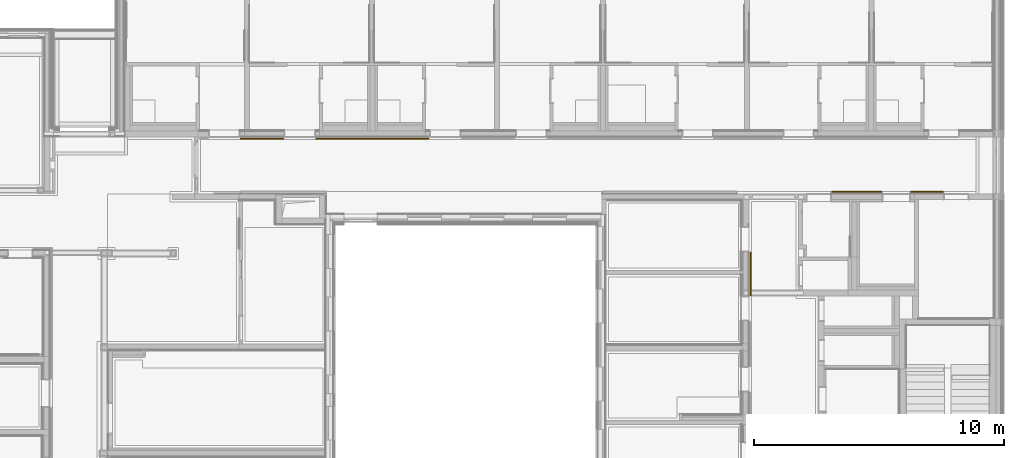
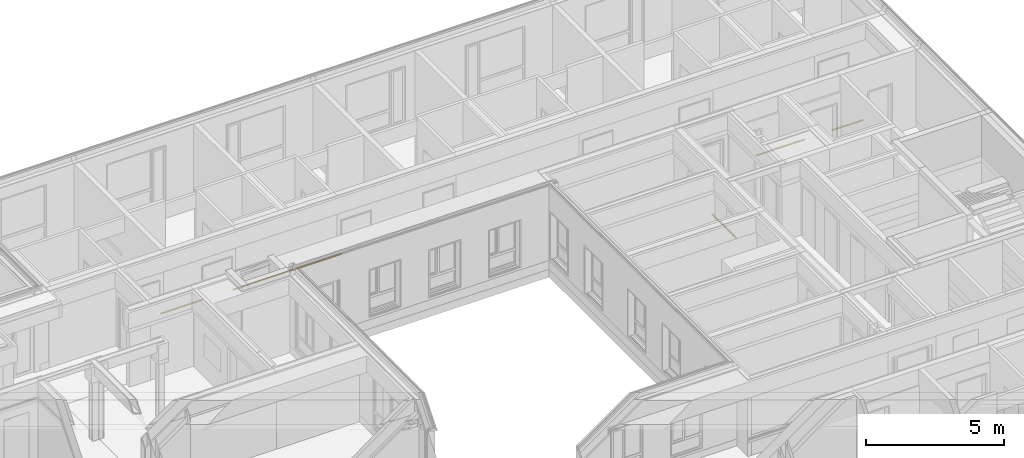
# One storey, part 203 of 207: 5 railings, 5 elements without a shape of their own.
"""IFC4 building model written with IfcOpenShell, lengths in metres."""

from ifc_helpers import new_model, entity, si_unit, converted_unit, derived_unit, frame, origin, place, context, subcontext, project, spatial, faceted_brep, material, element, aggregate, save


model = new_model("IFC4")

# Units and contexts
model_context = context("Model", 3, precision=1e-05, world=origin())
body_context = subcontext(model_context, "Body", "Model", "MODEL_VIEW")
ifc_project = project(units=[si_unit("LENGTHUNIT", "METRE"), si_unit("AREAUNIT", "SQUARE_METRE"), si_unit("VOLUMEUNIT", "CUBIC_METRE"), si_unit("MASSUNIT", "GRAM", prefix="KILO"), converted_unit("PLANEANGLEUNIT", "DEGREE", entity("IfcPlaneAngleMeasure", 0.0174532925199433), si_unit("PLANEANGLEUNIT", "RADIAN"), dimensions=[0, 0, 0, 0, 0, 0, 0]), derived_unit("THERMALTRANSMITTANCEUNIT", [(si_unit("POWERUNIT", "WATT"), 1), (si_unit("THERMODYNAMICTEMPERATUREUNIT", "KELVIN"), -1), (si_unit("LENGTHUNIT", "METRE"), -2)]), derived_unit("VOLUMETRICFLOWRATEUNIT", [(si_unit("LENGTHUNIT", "METRE"), 3), (converted_unit("TIMEUNIT", "hour", entity("IfcTimeMeasure", 3600.0), si_unit("TIMEUNIT", "SECOND"), dimensions=[0, 0, 1, 0, 0, 0, 0]), -1), (si_unit("LENGTHUNIT", "METRE"), -1)])], contexts=[model_context])

# Site, building, storey
site_placement = place(None, origin())
site = spatial("IfcSite", under=ifc_project, at=site_placement, Name="Psychiatrie Neubau Wunstorf", CompositionType="ELEMENT")
building_placement = place(site_placement, origin())
building = spatial("IfcBuilding", under=site, at=building_placement, Name="Neubau H2 Stationsgebäude", CompositionType="ELEMENT")
storey_placement = place(building_placement, frame((0.0, 0.0, -0.2)))
storey = spatial("IfcBuildingStorey", under=building, at=storey_placement, Name="H2 Ebene 0", CompositionType="ELEMENT", Elevation=-0.2)

# Assembly, railing
assembly_1_placement = place(storey_placement, frame((0.0, 0.0, 0.2)))
assembly_1 = element("IfcElementAssembly", 1, at=assembly_1_placement, inside=storey, Name="Geländer+Abstand", PredefinedType="NOTDEFINED")
ifc_material_1 = material(Name="Holz")
railing_1_placement = place(assembly_1_placement, frame((78.765, 25.0175, 0.8)))
railing_1 = element("IfcRailing", 2, at=railing_1_placement, material=ifc_material_1, context=body_context, shape_type="Brep", body=[
    faceted_brep([(4.51999999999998, 0.0498968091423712, 0.025), (4.51999999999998, 0.0495185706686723, 0.0206767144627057), (4.51999999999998, 0.0483953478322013, 0.0164847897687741), (4.51999999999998, 0.046561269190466, 0.0125515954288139), (4.51999999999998, 0.044072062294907, 0.00899663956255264), (4.51999999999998, 0.0410033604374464, 0.00592793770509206), (4.51999999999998, 0.0374484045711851, 0.00343873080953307), (4.51999999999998, 0.033515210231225, 0.00160465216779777), (4.51999999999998, 0.0293232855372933, 0.000481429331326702), (4.51999999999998, 0.024999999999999, 0.000103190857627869), (4.51999999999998, 0.0206767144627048, 0.000481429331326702), (4.51999999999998, 0.0164847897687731, 0.00160465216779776), (4.51999999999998, 0.012551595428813, 0.00343873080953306), (4.51999999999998, 0.00899663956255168, 0.00592793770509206), (4.51999999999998, 0.0059279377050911, 0.00899663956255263), (4.51999999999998, 0.0034387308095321, 0.0125515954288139), (4.51999999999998, 0.0016046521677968, 0.0164847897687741), (4.51999999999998, 0.000481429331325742, 0.0206767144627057), (4.51999999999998, 0.000103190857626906, 0.025), (4.51999999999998, 0.000481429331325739, 0.0293232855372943), (4.51999999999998, 0.0016046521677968, 0.0335152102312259), (4.51999999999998, 0.00343873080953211, 0.0374484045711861), (4.51999999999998, 0.00592793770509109, 0.0410033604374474), (4.51999999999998, 0.00899663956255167, 0.0440720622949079), (4.51999999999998, 0.012551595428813, 0.0465612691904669), (4.51999999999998, 0.0164847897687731, 0.0483953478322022), (4.51999999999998, 0.0206767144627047, 0.0495185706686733), (4.51999999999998, 0.024999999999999, 0.0498968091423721), (4.51999999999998, 0.0293232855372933, 0.0495185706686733), (4.51999999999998, 0.033515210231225, 0.0483953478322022), (4.51999999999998, 0.0374484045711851, 0.0465612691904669), (4.51999999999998, 0.0410033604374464, 0.044072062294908), (4.51999999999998, 0.044072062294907, 0.0410033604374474), (4.51999999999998, 0.046561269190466, 0.0374484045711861), (4.51999999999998, 0.0483953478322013, 0.0335152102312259), (4.51999999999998, 0.0495185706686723, 0.0293232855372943), (0.0, 0.0498968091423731, 0.025), (0.0, 0.0495185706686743, 0.0293232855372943), (0.0, 0.0483953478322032, 0.0335152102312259), (0.0, 0.0465612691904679, 0.0374484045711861), (0.0, 0.0440720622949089, 0.0410033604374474), (0.0, 0.0410033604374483, 0.044072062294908), (0.0, 0.037448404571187, 0.0465612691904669), (0.0, 0.0335152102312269, 0.0483953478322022), (0.0, 0.0293232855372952, 0.0495185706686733), (0.0, 0.025000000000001, 0.0498968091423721), (0.0, 0.0206767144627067, 0.0495185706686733), (0.0, 0.016484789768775, 0.0483953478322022), (0.0, 0.0125515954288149, 0.0465612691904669), (0.0, 0.00899663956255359, 0.0440720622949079), (0.0, 0.00592793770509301, 0.0410033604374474), (0.0, 0.00343873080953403, 0.0374484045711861), (0.0, 0.00160465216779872, 0.0335152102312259), (0.0, 0.000481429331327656, 0.0293232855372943), (0.0, 0.000103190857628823, 0.025), (0.0, 0.000481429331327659, 0.0206767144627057), (0.0, 0.00160465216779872, 0.0164847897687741), (0.0, 0.00343873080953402, 0.0125515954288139), (0.0, 0.00592793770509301, 0.00899663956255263), (0.0, 0.00899663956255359, 0.00592793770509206), (0.0, 0.0125515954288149, 0.00343873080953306), (0.0, 0.016484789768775, 0.00160465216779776), (0.0, 0.0206767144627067, 0.000481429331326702), (0.0, 0.025000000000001, 0.000103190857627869), (0.0, 0.0293232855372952, 0.000481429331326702), (0.0, 0.0335152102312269, 0.00160465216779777), (0.0, 0.037448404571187, 0.00343873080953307), (0.0, 0.0410033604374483, 0.00592793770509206), (0.0, 0.0440720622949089, 0.00899663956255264), (0.0, 0.0465612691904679, 0.0125515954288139), (0.0, 0.0483953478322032, 0.0164847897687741), (0.0, 0.0495185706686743, 0.0206767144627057)], [[[0, 1, 2, 3, 4, 5, 6, 7, 8, 9, 10, 11, 12, 13, 14, 15, 16, 17, 18, 19, 20, 21, 22, 23, 24, 25, 26, 27, 28, 29, 30, 31, 32, 33, 34, 35]], [[36, 37, 38, 39, 40, 41, 42, 43, 44, 45, 46, 47, 48, 49, 50, 51, 52, 53, 54, 55, 56, 57, 58, 59, 60, 61, 62, 63, 64, 65, 66, 67, 68, 69, 70, 71]], [[1, 0, 36, 71]], [[2, 1, 71, 70]], [[3, 2, 70, 69]], [[4, 3, 69, 68]], [[5, 4, 68, 67]], [[6, 5, 67, 66]], [[7, 6, 66, 65]], [[8, 7, 65, 64]], [[9, 8, 64, 63]], [[10, 9, 63, 62]], [[11, 10, 62, 61]], [[12, 11, 61, 60]], [[13, 12, 60, 59]], [[14, 13, 59, 58]], [[15, 14, 58, 57]], [[16, 15, 57, 56]], [[17, 16, 56, 55]], [[18, 17, 55, 54]], [[19, 18, 54, 53]], [[20, 19, 53, 52]], [[21, 20, 52, 51]], [[22, 21, 51, 50]], [[23, 22, 50, 49]], [[24, 23, 49, 48]], [[25, 24, 48, 47]], [[26, 25, 47, 46]], [[27, 26, 46, 45]], [[28, 27, 45, 44]], [[29, 28, 44, 43]], [[30, 29, 43, 42]], [[31, 30, 42, 41]], [[32, 31, 41, 40]], [[33, 32, 40, 39]], [[34, 33, 39, 38]], [[35, 34, 38, 37]], [[0, 35, 37, 36]]], orient=[[False], [False], [False], [False], [False], [False], [False], [False], [False], [False], [False], [False], [False], [False], [False], [False], [False], [False], [False], [False], [False], [False], [False], [False], [False], [False], [False], [False], [False], [False], [False], [False], [False], [False], [False], [False], [False], [False]]),
])
aggregate(assembly_1, [railing_1])

assembly_2_placement = place(storey_placement, frame((0.0, 0.0, 0.2)))
assembly_2 = element("IfcElementAssembly", 3, at=assembly_2_placement, inside=storey, Name="Geländer+Abstand", PredefinedType="NOTDEFINED")
ifc_material_2 = material(Name="Holz")
railing_2_placement = place(assembly_2_placement, frame((75.74, 25.0175, 0.8)))
railing_2 = element("IfcRailing", 4, at=railing_2_placement, material=ifc_material_2, context=body_context, shape_type="Brep", body=[
    faceted_brep([(0.0, 0.0498968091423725, 0.025), (0.0, 0.0495185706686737, 0.0293232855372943), (0.0, 0.0483953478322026, 0.0335152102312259), (0.0, 0.0465612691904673, 0.0374484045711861), (0.0, 0.0440720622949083, 0.0410033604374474), (0.0, 0.0410033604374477, 0.0440720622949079), (0.0, 0.0374484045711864, 0.0465612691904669), (0.0, 0.0335152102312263, 0.0483953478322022), (0.0, 0.0293232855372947, 0.0495185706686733), (0.0, 0.0250000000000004, 0.0498968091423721), (0.0, 0.0206767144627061, 0.0495185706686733), (0.0, 0.0164847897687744, 0.0483953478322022), (0.0, 0.0125515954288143, 0.0465612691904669), (0.0, 0.00899663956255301, 0.0440720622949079), (0.0, 0.00592793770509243, 0.0410033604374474), (0.0, 0.00343873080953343, 0.0374484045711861), (0.0, 0.00160465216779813, 0.0335152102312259), (0.0, 0.000481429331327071, 0.0293232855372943), (0.0, 0.000103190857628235, 0.025), (0.0, 0.000481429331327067, 0.0206767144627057), (0.0, 0.00160465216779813, 0.0164847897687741), (0.0, 0.00343873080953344, 0.0125515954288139), (0.0, 0.00592793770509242, 0.00899663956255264), (0.0, 0.008996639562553, 0.00592793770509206), (0.0, 0.0125515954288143, 0.00343873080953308), (0.0, 0.0164847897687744, 0.00160465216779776), (0.0, 0.0206767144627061, 0.000481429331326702), (0.0, 0.0250000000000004, 0.000103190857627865), (0.0, 0.0293232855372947, 0.000481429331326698), (0.0, 0.0335152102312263, 0.00160465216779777), (0.0, 0.0374484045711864, 0.00343873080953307), (0.0, 0.0410033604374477, 0.00592793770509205), (0.0, 0.0440720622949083, 0.00899663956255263), (0.0, 0.0465612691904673, 0.0125515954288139), (0.0, 0.0483953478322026, 0.0164847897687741), (0.0, 0.0495185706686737, 0.0206767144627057), (1.73499999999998, 0.0498968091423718, 0.025), (1.73499999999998, 0.0495185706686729, 0.0206767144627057), (1.73499999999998, 0.0483953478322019, 0.0164847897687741), (1.73499999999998, 0.0465612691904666, 0.0125515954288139), (1.73499999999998, 0.0440720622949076, 0.00899663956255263), (1.73499999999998, 0.041003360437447, 0.00592793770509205), (1.73499999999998, 0.0374484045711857, 0.00343873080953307), (1.73499999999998, 0.0335152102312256, 0.00160465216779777), (1.73499999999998, 0.0293232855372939, 0.000481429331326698), (1.73499999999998, 0.0249999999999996, 0.000103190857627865), (1.73499999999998, 0.0206767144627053, 0.000481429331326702), (1.73499999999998, 0.0164847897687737, 0.00160465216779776), (1.73499999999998, 0.0125515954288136, 0.00343873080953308), (1.73499999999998, 0.00899663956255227, 0.00592793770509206), (1.73499999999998, 0.00592793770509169, 0.00899663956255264), (1.73499999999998, 0.00343873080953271, 0.0125515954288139), (1.73499999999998, 0.00160465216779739, 0.0164847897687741), (1.73499999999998, 0.000481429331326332, 0.0206767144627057), (1.73499999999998, 0.000103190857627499, 0.025), (1.73499999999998, 0.000481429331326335, 0.0293232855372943), (1.73499999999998, 0.0016046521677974, 0.0335152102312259), (1.73499999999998, 0.0034387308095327, 0.0374484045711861), (1.73499999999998, 0.00592793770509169, 0.0410033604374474), (1.73499999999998, 0.00899663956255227, 0.0440720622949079), (1.73499999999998, 0.0125515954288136, 0.0465612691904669), (1.73499999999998, 0.0164847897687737, 0.0483953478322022), (1.73499999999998, 0.0206767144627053, 0.0495185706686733), (1.73499999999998, 0.0249999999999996, 0.0498968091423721), (1.73499999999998, 0.0293232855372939, 0.0495185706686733), (1.73499999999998, 0.0335152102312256, 0.0483953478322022), (1.73499999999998, 0.0374484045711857, 0.0465612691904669), (1.73499999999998, 0.041003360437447, 0.0440720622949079), (1.73499999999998, 0.0440720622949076, 0.0410033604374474), (1.73499999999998, 0.0465612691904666, 0.0374484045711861), (1.73499999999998, 0.0483953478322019, 0.0335152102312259), (1.73499999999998, 0.0495185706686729, 0.0293232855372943)], [[[0, 1, 2, 3, 4, 5, 6, 7, 8, 9, 10, 11, 12, 13, 14, 15, 16, 17, 18, 19, 20, 21, 22, 23, 24, 25, 26, 27, 28, 29, 30, 31, 32, 33, 34, 35]], [[36, 37, 38, 39, 40, 41, 42, 43, 44, 45, 46, 47, 48, 49, 50, 51, 52, 53, 54, 55, 56, 57, 58, 59, 60, 61, 62, 63, 64, 65, 66, 67, 68, 69, 70, 71]], [[1, 0, 36, 71]], [[2, 1, 71, 70]], [[3, 2, 70, 69]], [[4, 3, 69, 68]], [[5, 4, 68, 67]], [[6, 5, 67, 66]], [[7, 6, 66, 65]], [[8, 7, 65, 64]], [[9, 8, 64, 63]], [[10, 9, 63, 62]], [[11, 10, 62, 61]], [[12, 11, 61, 60]], [[13, 12, 60, 59]], [[14, 13, 59, 58]], [[15, 14, 58, 57]], [[16, 15, 57, 56]], [[17, 16, 56, 55]], [[18, 17, 55, 54]], [[19, 18, 54, 53]], [[20, 19, 53, 52]], [[21, 20, 52, 51]], [[22, 21, 51, 50]], [[23, 22, 50, 49]], [[24, 23, 49, 48]], [[25, 24, 48, 47]], [[26, 25, 47, 46]], [[27, 26, 46, 45]], [[28, 27, 45, 44]], [[29, 28, 44, 43]], [[30, 29, 43, 42]], [[31, 30, 42, 41]], [[32, 31, 41, 40]], [[33, 32, 40, 39]], [[34, 33, 39, 38]], [[35, 34, 38, 37]], [[0, 35, 37, 36]]], orient=[[False], [False], [False], [False], [False], [False], [False], [False], [False], [False], [False], [False], [False], [False], [False], [False], [False], [False], [False], [False], [False], [False], [False], [False], [False], [False], [False], [False], [False], [False], [False], [False], [False], [False], [False], [False], [False], [False]]),
])
aggregate(assembly_2, [railing_2])

assembly_3_placement = place(storey_placement, frame((0.0, 0.0, 0.2)))
assembly_3 = element("IfcElementAssembly", 5, at=assembly_3_placement, inside=storey, Name="Geländer+Abstand", PredefinedType="NOTDEFINED")
ifc_material_3 = material(Name="Holz")
railing_3_placement = place(assembly_3_placement, frame((99.4000062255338, 22.886, 0.8)))
railing_3 = element("IfcRailing", 6, at=railing_3_placement, material=ifc_material_3, context=body_context, shape_type="Brep", body=[
    faceted_brep([(1.99998727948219, 0.000103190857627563, 0.025), (1.99998727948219, 0.0004814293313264, 0.0293232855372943), (1.99998727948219, 0.00160465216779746, 0.0335152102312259), (1.99998727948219, 0.00343873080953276, 0.0374484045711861), (1.99998727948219, 0.00592793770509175, 0.0410033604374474), (1.99998727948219, 0.00899663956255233, 0.0440720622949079), (1.99998727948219, 0.0125515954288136, 0.0465612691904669), (1.99998727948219, 0.0164847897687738, 0.0483953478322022), (1.99998727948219, 0.0206767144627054, 0.0495185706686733), (1.99998727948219, 0.0249999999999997, 0.0498968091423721), (1.99998727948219, 0.029323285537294, 0.0495185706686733), (1.99998727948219, 0.0335152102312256, 0.0483953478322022), (1.99998727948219, 0.0374484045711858, 0.0465612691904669), (1.99998727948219, 0.0410033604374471, 0.0440720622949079), (1.99998727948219, 0.0440720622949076, 0.0410033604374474), (1.99998727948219, 0.0465612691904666, 0.0374484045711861), (1.99998727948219, 0.0483953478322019, 0.0335152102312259), (1.99998727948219, 0.049518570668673, 0.0293232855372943), (1.99998727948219, 0.0498968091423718, 0.025), (1.99998727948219, 0.049518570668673, 0.0206767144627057), (1.99998727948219, 0.0483953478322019, 0.0164847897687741), (1.99998727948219, 0.0465612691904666, 0.0125515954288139), (1.99998727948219, 0.0440720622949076, 0.00899663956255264), (1.99998727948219, 0.0410033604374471, 0.00592793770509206), (1.99998727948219, 0.0374484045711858, 0.00343873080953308), (1.99998727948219, 0.0335152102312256, 0.00160465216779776), (1.99998727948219, 0.029323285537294, 0.000481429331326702), (1.99998727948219, 0.0249999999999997, 0.000103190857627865), (1.99998727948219, 0.0206767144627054, 0.000481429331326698), (1.99998727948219, 0.0164847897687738, 0.00160465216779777), (1.99998727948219, 0.0125515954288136, 0.00343873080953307), (1.99998727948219, 0.00899663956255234, 0.00592793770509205), (1.99998727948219, 0.00592793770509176, 0.00899663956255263), (1.99998727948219, 0.00343873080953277, 0.0125515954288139), (1.99998727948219, 0.00160465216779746, 0.0164847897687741), (1.99998727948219, 0.0004814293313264, 0.0206767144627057), (0.0, 0.000103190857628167, 0.025), (0.0, 0.000481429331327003, 0.0206767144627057), (0.0, 0.00160465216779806, 0.0164847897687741), (0.0, 0.00343873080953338, 0.0125515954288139), (0.0, 0.00592793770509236, 0.00899663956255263), (0.0, 0.00899663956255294, 0.00592793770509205), (0.0, 0.0125515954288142, 0.00343873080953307), (0.0, 0.0164847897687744, 0.00160465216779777), (0.0, 0.020676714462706, 0.000481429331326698), (0.0, 0.0250000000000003, 0.000103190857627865), (0.0, 0.0293232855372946, 0.000481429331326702), (0.0, 0.0335152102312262, 0.00160465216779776), (0.0, 0.0374484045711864, 0.00343873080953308), (0.0, 0.0410033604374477, 0.00592793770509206), (0.0, 0.0440720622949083, 0.00899663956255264), (0.0, 0.0465612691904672, 0.0125515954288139), (0.0, 0.0483953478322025, 0.0164847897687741), (0.0, 0.0495185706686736, 0.0206767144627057), (0.0, 0.0498968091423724, 0.025), (0.0, 0.0495185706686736, 0.0293232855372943), (0.0, 0.0483953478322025, 0.0335152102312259), (0.0, 0.0465612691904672, 0.0374484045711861), (0.0, 0.0440720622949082, 0.0410033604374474), (0.0, 0.0410033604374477, 0.0440720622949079), (0.0, 0.0374484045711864, 0.0465612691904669), (0.0, 0.0335152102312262, 0.0483953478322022), (0.0, 0.0293232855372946, 0.0495185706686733), (0.0, 0.0250000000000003, 0.0498968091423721), (0.0, 0.020676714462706, 0.0495185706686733), (0.0, 0.0164847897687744, 0.0483953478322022), (0.0, 0.0125515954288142, 0.0465612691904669), (0.0, 0.00899663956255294, 0.0440720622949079), (0.0, 0.00592793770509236, 0.0410033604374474), (0.0, 0.00343873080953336, 0.0374484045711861), (0.0, 0.00160465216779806, 0.0335152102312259), (0.0, 0.000481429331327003, 0.0293232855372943)], [[[0, 1, 2, 3, 4, 5, 6, 7, 8, 9, 10, 11, 12, 13, 14, 15, 16, 17, 18, 19, 20, 21, 22, 23, 24, 25, 26, 27, 28, 29, 30, 31, 32, 33, 34, 35]], [[36, 37, 38, 39, 40, 41, 42, 43, 44, 45, 46, 47, 48, 49, 50, 51, 52, 53, 54, 55, 56, 57, 58, 59, 60, 61, 62, 63, 64, 65, 66, 67, 68, 69, 70, 71]], [[1, 0, 36, 71]], [[2, 1, 71, 70]], [[3, 2, 70, 69]], [[4, 3, 69, 68]], [[5, 4, 68, 67]], [[6, 5, 67, 66]], [[7, 6, 66, 65]], [[8, 7, 65, 64]], [[9, 8, 64, 63]], [[10, 9, 63, 62]], [[11, 10, 62, 61]], [[12, 11, 61, 60]], [[13, 12, 60, 59]], [[14, 13, 59, 58]], [[15, 14, 58, 57]], [[16, 15, 57, 56]], [[17, 16, 56, 55]], [[18, 17, 55, 54]], [[19, 18, 54, 53]], [[20, 19, 53, 52]], [[21, 20, 52, 51]], [[22, 21, 51, 50]], [[23, 22, 50, 49]], [[24, 23, 49, 48]], [[25, 24, 48, 47]], [[26, 25, 47, 46]], [[27, 26, 46, 45]], [[28, 27, 45, 44]], [[29, 28, 44, 43]], [[30, 29, 43, 42]], [[31, 30, 42, 41]], [[32, 31, 41, 40]], [[33, 32, 40, 39]], [[34, 33, 39, 38]], [[35, 34, 38, 37]], [[0, 35, 37, 36]]], orient=[[False], [False], [False], [False], [False], [False], [False], [False], [False], [False], [False], [False], [False], [False], [False], [False], [False], [False], [False], [False], [False], [False], [False], [False], [False], [False], [False], [False], [False], [False], [False], [False], [False], [False], [False], [False], [False], [False]]),
])
aggregate(assembly_3, [railing_3])

assembly_4_placement = place(storey_placement, frame((0.0, 0.0, 0.2)))
assembly_4 = element("IfcElementAssembly", 7, at=assembly_4_placement, inside=storey, Name="Geländer+Abstand", PredefinedType="NOTDEFINED")
ifc_material_4 = material(Name="Holz")
railing_4_placement = place(assembly_4_placement, frame((96.1324999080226, 18.769, 0.8)))
railing_4 = element("IfcRailing", 8, at=railing_4_placement, material=ifc_material_4, context=body_context, shape_type="Brep", body=[
    faceted_brep([(0.025, 0.0, 0.0498968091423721), (0.0293232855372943, 0.0, 0.0495185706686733), (0.0335152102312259, 0.0, 0.0483953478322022), (0.0374484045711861, 0.0, 0.0465612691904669), (0.0410033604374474, 0.0, 0.0440720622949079), (0.0440720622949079, 0.0, 0.0410033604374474), (0.0465612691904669, 0.0, 0.0374484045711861), (0.0483953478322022, 0.0, 0.0335152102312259), (0.0495185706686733, 0.0, 0.0293232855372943), (0.0498968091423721, 0.0, 0.025), (0.0495185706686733, 0.0, 0.0206767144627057), (0.0483953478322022, 0.0, 0.0164847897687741), (0.0465612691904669, 0.0, 0.0125515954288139), (0.0440720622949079, 0.0, 0.00899663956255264), (0.0410033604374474, 0.0, 0.00592793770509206), (0.0374484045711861, 0.0, 0.00343873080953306), (0.0335152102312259, 0.0, 0.00160465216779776), (0.0293232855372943, 0.0, 0.000481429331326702), (0.025, 0.0, 0.000103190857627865), (0.0206767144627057, 0.0, 0.000481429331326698), (0.0164847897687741, 0.0, 0.00160465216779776), (0.0125515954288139, 0.0, 0.00343873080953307), (0.00899663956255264, 0.0, 0.00592793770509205), (0.00592793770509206, 0.0, 0.00899663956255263), (0.00343873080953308, 0.0, 0.0125515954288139), (0.00160465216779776, 0.0, 0.0164847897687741), (0.000481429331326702, 0.0, 0.0206767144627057), (0.000103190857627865, 0.0, 0.025), (0.000481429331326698, 0.0, 0.0293232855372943), (0.00160465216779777, 0.0, 0.0335152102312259), (0.00343873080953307, 0.0, 0.0374484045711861), (0.00592793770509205, 0.0, 0.0410033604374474), (0.00899663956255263, 0.0, 0.0440720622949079), (0.0125515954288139, 0.0, 0.0465612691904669), (0.0164847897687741, 0.0, 0.0483953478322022), (0.0206767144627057, 0.0, 0.0495185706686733), (0.025, 1.734, 0.0498968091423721), (0.0206767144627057, 1.734, 0.0495185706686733), (0.0164847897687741, 1.734, 0.0483953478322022), (0.0125515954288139, 1.734, 0.0465612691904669), (0.00899663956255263, 1.734, 0.0440720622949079), (0.00592793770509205, 1.734, 0.0410033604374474), (0.00343873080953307, 1.734, 0.0374484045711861), (0.00160465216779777, 1.734, 0.0335152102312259), (0.000481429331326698, 1.734, 0.0293232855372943), (0.000103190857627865, 1.734, 0.025), (0.000481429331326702, 1.734, 0.0206767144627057), (0.00160465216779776, 1.734, 0.0164847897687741), (0.00343873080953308, 1.734, 0.0125515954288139), (0.00592793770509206, 1.734, 0.00899663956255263), (0.00899663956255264, 1.734, 0.00592793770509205), (0.0125515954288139, 1.734, 0.00343873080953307), (0.0164847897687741, 1.734, 0.00160465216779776), (0.0206767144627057, 1.734, 0.000481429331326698), (0.025, 1.734, 0.000103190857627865), (0.0293232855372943, 1.734, 0.000481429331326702), (0.0335152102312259, 1.734, 0.00160465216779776), (0.0374484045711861, 1.734, 0.00343873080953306), (0.0410033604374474, 1.734, 0.00592793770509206), (0.0440720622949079, 1.734, 0.00899663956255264), (0.0465612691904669, 1.734, 0.0125515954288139), (0.0483953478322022, 1.734, 0.0164847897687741), (0.0495185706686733, 1.734, 0.0206767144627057), (0.0498968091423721, 1.734, 0.025), (0.0495185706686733, 1.734, 0.0293232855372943), (0.0483953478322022, 1.734, 0.0335152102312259), (0.0465612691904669, 1.734, 0.0374484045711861), (0.0440720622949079, 1.734, 0.0410033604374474), (0.0410033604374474, 1.734, 0.0440720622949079), (0.0374484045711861, 1.734, 0.0465612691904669), (0.0335152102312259, 1.734, 0.0483953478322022), (0.0293232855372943, 1.734, 0.0495185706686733)], [[[0, 1, 2, 3, 4, 5, 6, 7, 8, 9, 10, 11, 12, 13, 14, 15, 16, 17, 18, 19, 20, 21, 22, 23, 24, 25, 26, 27, 28, 29, 30, 31, 32, 33, 34, 35]], [[36, 37, 38, 39, 40, 41, 42, 43, 44, 45, 46, 47, 48, 49, 50, 51, 52, 53, 54, 55, 56, 57, 58, 59, 60, 61, 62, 63, 64, 65, 66, 67, 68, 69, 70, 71]], [[1, 0, 36, 71]], [[2, 1, 71, 70]], [[3, 2, 70, 69]], [[4, 3, 69, 68]], [[5, 4, 68, 67]], [[6, 5, 67, 66]], [[7, 6, 66, 65]], [[8, 7, 65, 64]], [[9, 8, 64, 63]], [[10, 9, 63, 62]], [[11, 10, 62, 61]], [[12, 11, 61, 60]], [[13, 12, 60, 59]], [[14, 13, 59, 58]], [[15, 14, 58, 57]], [[16, 15, 57, 56]], [[17, 16, 56, 55]], [[18, 17, 55, 54]], [[19, 18, 54, 53]], [[20, 19, 53, 52]], [[21, 20, 52, 51]], [[22, 21, 51, 50]], [[23, 22, 50, 49]], [[24, 23, 49, 48]], [[25, 24, 48, 47]], [[26, 25, 47, 46]], [[27, 26, 46, 45]], [[28, 27, 45, 44]], [[29, 28, 44, 43]], [[30, 29, 43, 42]], [[31, 30, 42, 41]], [[32, 31, 41, 40]], [[33, 32, 40, 39]], [[34, 33, 39, 38]], [[35, 34, 38, 37]], [[0, 35, 37, 36]]], orient=[[False], [False], [False], [False], [False], [False], [False], [False], [False], [False], [False], [False], [False], [False], [False], [False], [False], [False], [False], [False], [False], [False], [False], [False], [False], [False], [False], [False], [False], [False], [False], [False], [False], [False], [False], [False], [False], [False]]),
])
aggregate(assembly_4, [railing_4])

assembly_5_placement = place(storey_placement, frame((0.0, 0.0, 0.2)))
assembly_5 = element("IfcElementAssembly", 9, at=assembly_5_placement, inside=storey, Name="Geländer+Abstand", PredefinedType="NOTDEFINED")
ifc_material_5 = material(Name="Holz")
railing_5_placement = place(assembly_5_placement, frame((102.564993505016, 22.886, 0.8)))
railing_5 = element("IfcRailing", 10, at=railing_5_placement, material=ifc_material_5, context=body_context, shape_type="Brep", body=[
    faceted_brep([(1.29255181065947, 0.00010319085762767, 0.025), (1.29255181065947, 0.000481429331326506, 0.0293232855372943), (1.29255181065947, 0.00160465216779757, 0.0335152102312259), (1.29255181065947, 0.00343873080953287, 0.0374484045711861), (1.29255181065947, 0.00592793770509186, 0.0410033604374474), (1.29255181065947, 0.00899663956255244, 0.0440720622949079), (1.29255181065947, 0.0125515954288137, 0.0465612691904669), (1.29255181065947, 0.0164847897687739, 0.0483953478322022), (1.29255181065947, 0.0206767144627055, 0.0495185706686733), (1.29255181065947, 0.0249999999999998, 0.0498968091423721), (1.29255181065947, 0.0293232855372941, 0.0495185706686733), (1.29255181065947, 0.0335152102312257, 0.0483953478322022), (1.29255181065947, 0.0374484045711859, 0.0465612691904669), (1.29255181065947, 0.0410033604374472, 0.0440720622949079), (1.29255181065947, 0.0440720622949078, 0.0410033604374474), (1.29255181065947, 0.0465612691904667, 0.0374484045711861), (1.29255181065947, 0.048395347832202, 0.0335152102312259), (1.29255181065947, 0.0495185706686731, 0.0293232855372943), (1.29255181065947, 0.0498968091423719, 0.025), (1.29255181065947, 0.0495185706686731, 0.0206767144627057), (1.29255181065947, 0.048395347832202, 0.0164847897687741), (1.29255181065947, 0.0465612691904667, 0.0125515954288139), (1.29255181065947, 0.0440720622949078, 0.00899663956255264), (1.29255181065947, 0.0410033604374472, 0.00592793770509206), (1.29255181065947, 0.0374484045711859, 0.00343873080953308), (1.29255181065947, 0.0335152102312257, 0.00160465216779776), (1.29255181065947, 0.0293232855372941, 0.000481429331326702), (1.29255181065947, 0.0249999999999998, 0.000103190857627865), (1.29255181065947, 0.0206767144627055, 0.000481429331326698), (1.29255181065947, 0.0164847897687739, 0.00160465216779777), (1.29255181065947, 0.0125515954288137, 0.00343873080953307), (1.29255181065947, 0.00899663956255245, 0.00592793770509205), (1.29255181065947, 0.00592793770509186, 0.00899663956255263), (1.29255181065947, 0.00343873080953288, 0.0125515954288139), (1.29255181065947, 0.00160465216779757, 0.0164847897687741), (1.29255181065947, 0.000481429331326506, 0.0206767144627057), (0.0, 0.00010319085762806, 0.025), (0.0, 0.000481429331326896, 0.0206767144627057), (0.0, 0.00160465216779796, 0.0164847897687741), (0.0, 0.00343873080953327, 0.0125515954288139), (0.0, 0.00592793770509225, 0.00899663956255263), (0.0, 0.00899663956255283, 0.00592793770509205), (0.0, 0.0125515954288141, 0.00343873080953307), (0.0, 0.0164847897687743, 0.00160465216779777), (0.0, 0.0206767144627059, 0.000481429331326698), (0.0, 0.0250000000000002, 0.000103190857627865), (0.0, 0.0293232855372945, 0.000481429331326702), (0.0, 0.0335152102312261, 0.00160465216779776), (0.0, 0.0374484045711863, 0.00343873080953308), (0.0, 0.0410033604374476, 0.00592793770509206), (0.0, 0.0440720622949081, 0.00899663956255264), (0.0, 0.0465612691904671, 0.0125515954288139), (0.0, 0.0483953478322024, 0.0164847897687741), (0.0, 0.0495185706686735, 0.0206767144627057), (0.0, 0.0498968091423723, 0.025), (0.0, 0.0495185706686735, 0.0293232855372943), (0.0, 0.0483953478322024, 0.0335152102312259), (0.0, 0.0465612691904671, 0.0374484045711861), (0.0, 0.0440720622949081, 0.0410033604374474), (0.0, 0.0410033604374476, 0.0440720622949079), (0.0, 0.0374484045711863, 0.0465612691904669), (0.0, 0.0335152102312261, 0.0483953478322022), (0.0, 0.0293232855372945, 0.0495185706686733), (0.0, 0.0250000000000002, 0.0498968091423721), (0.0, 0.0206767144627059, 0.0495185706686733), (0.0, 0.0164847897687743, 0.0483953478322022), (0.0, 0.0125515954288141, 0.0465612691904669), (0.0, 0.00899663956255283, 0.0440720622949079), (0.0, 0.00592793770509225, 0.0410033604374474), (0.0, 0.00343873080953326, 0.0374484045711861), (0.0, 0.00160465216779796, 0.0335152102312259), (0.0, 0.000481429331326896, 0.0293232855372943)], [[[0, 1, 2, 3, 4, 5, 6, 7, 8, 9, 10, 11, 12, 13, 14, 15, 16, 17, 18, 19, 20, 21, 22, 23, 24, 25, 26, 27, 28, 29, 30, 31, 32, 33, 34, 35]], [[36, 37, 38, 39, 40, 41, 42, 43, 44, 45, 46, 47, 48, 49, 50, 51, 52, 53, 54, 55, 56, 57, 58, 59, 60, 61, 62, 63, 64, 65, 66, 67, 68, 69, 70, 71]], [[1, 0, 36, 71]], [[2, 1, 71, 70]], [[3, 2, 70, 69]], [[4, 3, 69, 68]], [[5, 4, 68, 67]], [[6, 5, 67, 66]], [[7, 6, 66, 65]], [[8, 7, 65, 64]], [[9, 8, 64, 63]], [[10, 9, 63, 62]], [[11, 10, 62, 61]], [[12, 11, 61, 60]], [[13, 12, 60, 59]], [[14, 13, 59, 58]], [[15, 14, 58, 57]], [[16, 15, 57, 56]], [[17, 16, 56, 55]], [[18, 17, 55, 54]], [[19, 18, 54, 53]], [[20, 19, 53, 52]], [[21, 20, 52, 51]], [[22, 21, 51, 50]], [[23, 22, 50, 49]], [[24, 23, 49, 48]], [[25, 24, 48, 47]], [[26, 25, 47, 46]], [[27, 26, 46, 45]], [[28, 27, 45, 44]], [[29, 28, 44, 43]], [[30, 29, 43, 42]], [[31, 30, 42, 41]], [[32, 31, 41, 40]], [[33, 32, 40, 39]], [[34, 33, 39, 38]], [[35, 34, 38, 37]], [[0, 35, 37, 36]]], orient=[[False], [False], [False], [False], [False], [False], [False], [False], [False], [False], [False], [False], [False], [False], [False], [False], [False], [False], [False], [False], [False], [False], [False], [False], [False], [False], [False], [False], [False], [False], [False], [False], [False], [False], [False], [False], [False], [False]]),
])
aggregate(assembly_5, [railing_5])

save(model, "model.ifc")
